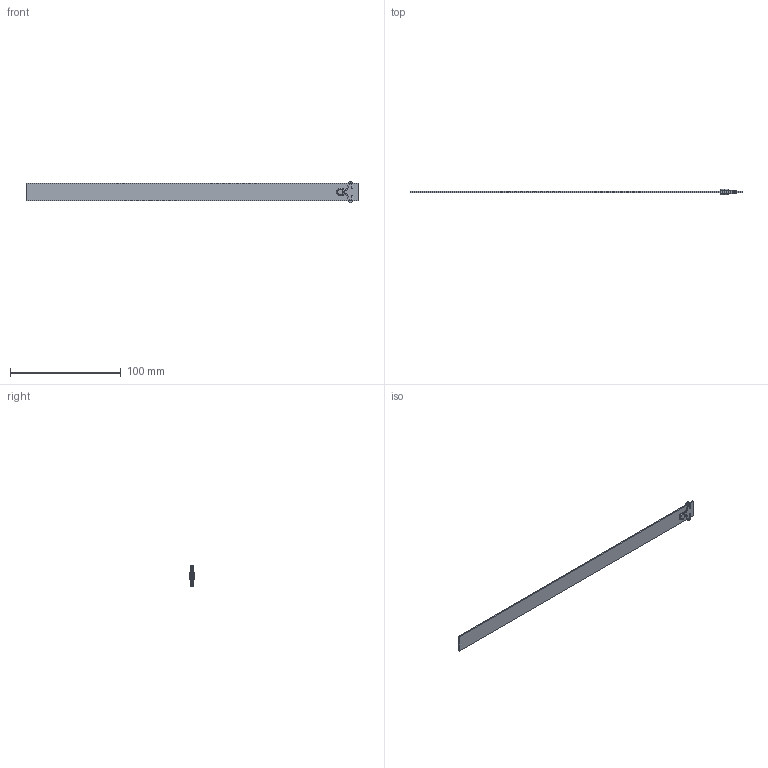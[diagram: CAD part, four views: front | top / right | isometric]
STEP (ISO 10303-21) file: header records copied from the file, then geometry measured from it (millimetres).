
FILE_DESCRIPTION (( 'STEP AP203' ), '1' );
FILE_NAME ('RLA-16x300.STEP', '2015-12-10T16:11:52', ( 'Balzi' ), ( '' ), 'SwSTEP 2.0', 'SolidWorks 2015', '' );
FILE_SCHEMA (( 'CONFIG_CONTROL_DESIGN' ));
Length unit declared in the file: millimetre
Products named in the file (1): RLA-16x300
Bounding box: 300 x 5 x 18.99 mm (x, y, z)
Volume: 4875.2 mm3; surface area: 10593 mm2
Topology: 5 solids, 5 shells, 84 faces, 162 edges, 88 vertices
Faces by surface type: torus 40, cylinder 30, plane 14
Entity records: 2199 total; most frequent: DIRECTION 452, CARTESIAN_POINT 335, ORIENTED_EDGE 324, AXIS2_PLACEMENT_3D 205, EDGE_CURVE 162, CIRCLE 120, VERTEX_POINT 88, EDGE_LOOP 86
